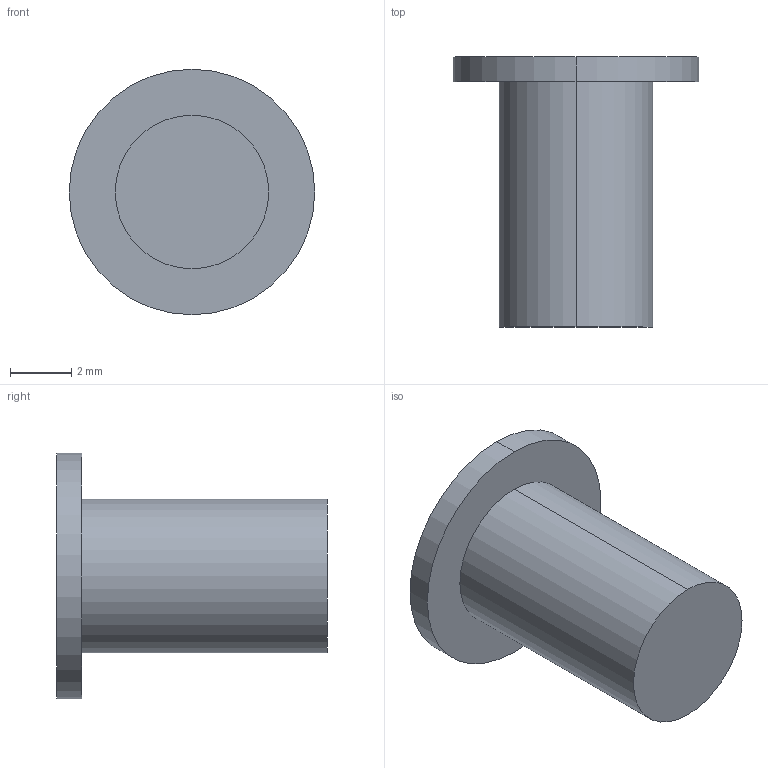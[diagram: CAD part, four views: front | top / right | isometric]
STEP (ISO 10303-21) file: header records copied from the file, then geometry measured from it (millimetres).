
FILE_DESCRIPTION (( 'STEP AP214' ), '1' );
FILE_NAME ('Frontpuffer_KP60016200.STEP', '2012-02-08T09:17:29', ( 'Grass' ), ( '' ), 'SwSTEP 2.0', 'SolidWorks 2011', '' );
FILE_SCHEMA (( 'AUTOMOTIVE_DESIGN' ));
Length unit declared in the file: millimetre
Products named in the file (1): Frontpuffer_KP60016200
Bounding box: 8 x 8.8 x 8 mm (x, y, z)
Volume: 197.3 mm3; surface area: 246.3 mm2
Topology: 1 solids, 1 shells, 7 faces, 12 edges, 8 vertices
Faces by surface type: cylinder 4, plane 3
Entity records: 208 total; most frequent: DIRECTION 36, CARTESIAN_POINT 28, ORIENTED_EDGE 24, AXIS2_PLACEMENT_3D 16, EDGE_CURVE 12, CIRCLE 8, VERTEX_POINT 8, EDGE_LOOP 8
